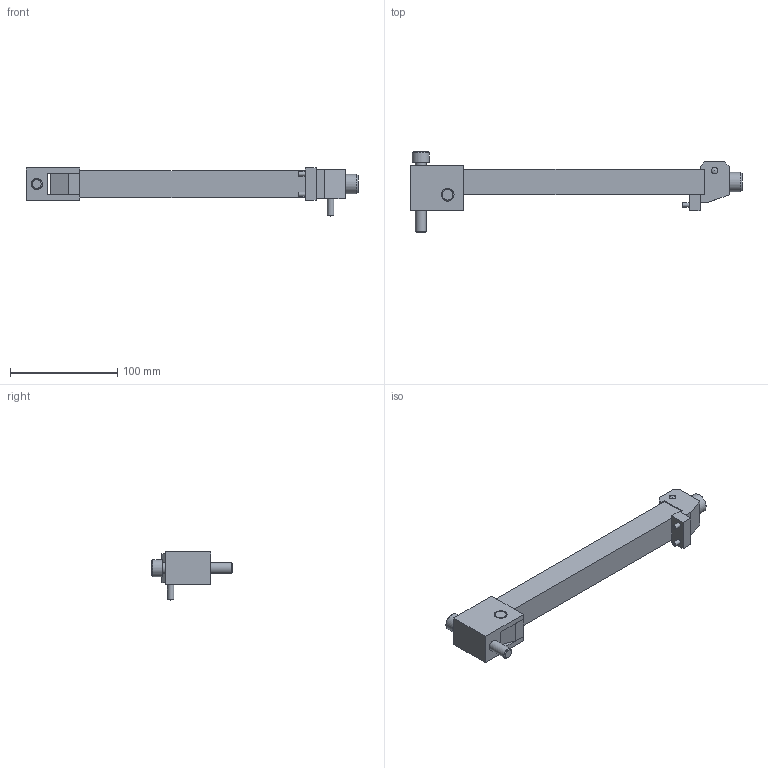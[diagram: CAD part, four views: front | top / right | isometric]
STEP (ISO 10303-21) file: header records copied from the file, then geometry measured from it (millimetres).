
FILE_DESCRIPTION(/* description */ ('STEP AP214'),/* implementation_level */ '2;1');
FILE_NAME(/* name */ 'KL12220',/* time_stamp */ '2024-11-26T03:03:42+01:00',/* author */ ('License CC BY-ND 4.0'),/* organization */ ('CADENAS'),/* preprocessor_version */ 'ST-DEVELOPER v19.3',/* originating_system */ 'PARTsolutions',/* authorisation */ ' ');
FILE_SCHEMA (('AUTOMOTIVE_DESIGN {1 0 10303 214 3 1 1}'));
Length unit declared in the file: millimetre
Products named in the file (11): KL12220; KL122201; KL122202; KL122203; KL122204; KL122205; KL122206; KL122207; KL122208; KL122209; KL1222010
Assembly tree (11 placements, depth 2):
  KL12220
    KL122201
    KL122202
    KL122203
    KL122204
    KL122205
    KL122206
    KL122207
    KL122208
    KL122209  x2
    KL1222010
Bounding box: 309 x 75 x 44.7 mm (x, y, z)
Volume: 216590.7 mm3; surface area: 59297 mm2
Topology: 11 solids, 11 shells, 135 faces, 300 edges, 196 vertices
Faces by surface type: plane 95, cylinder 23, cone 15, sphere 2
Full cylindrical faces by diameter (mm): 4 x2, 4.134 x1, 4.3 x2, 5 x1, 6 x2, 7 x2, 8 x2, 10 x1, 10.106 x1, 10.5 x1, 12 x5, 13 x1, 16 x1, 18 x1
Entity records: 3416 total; most frequent: CARTESIAN_POINT 546, DIRECTION 544, ORIENTED_EDGE 452, EDGE_CURVE 226, AXIS2_PLACEMENT_3D 186, FACE_BOUND 183, EDGE_LOOP 182, LINE 172
